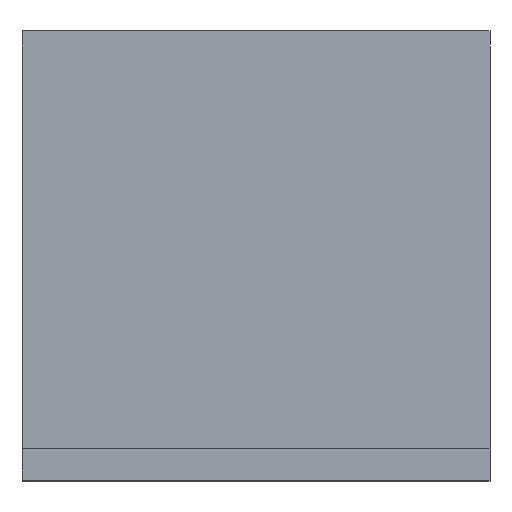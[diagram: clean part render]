
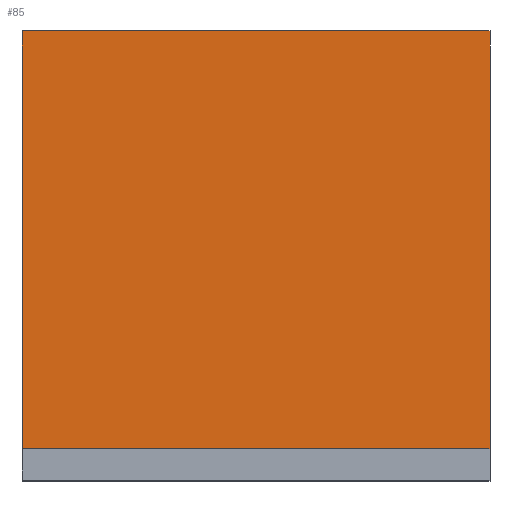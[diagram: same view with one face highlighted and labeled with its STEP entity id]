
A CAD part, top view. The second image highlights one B-rep face of the part: STEP entity #85.
In plain terms, the highlighted planar face has unit normal (0, 0, 1).
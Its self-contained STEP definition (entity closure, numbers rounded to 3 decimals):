
#85=ADVANCED_FACE('',(#131),#615,.T.);
#131=FACE_OUTER_BOUND('',#177,.T.);
#177=EDGE_LOOP('',(#272,#273,#274,#275));
#272=ORIENTED_EDGE('',*,*,#432,.T.);
#273=ORIENTED_EDGE('',*,*,#426,.F.);
#274=ORIENTED_EDGE('',*,*,#433,.F.);
#275=ORIENTED_EDGE('',*,*,#430,.F.);
#426=EDGE_CURVE('',#565,#564,#516,.T.);
#430=EDGE_CURVE('',#566,#567,#520,.T.);
#432=EDGE_CURVE('',#566,#564,#522,.T.);
#433=EDGE_CURVE('',#567,#565,#523,.T.);
#516=B_SPLINE_CURVE_WITH_KNOTS('',1,(#930,#931),.UNSPECIFIED.,.F.,.F.,(2,
2),(-1.955,0.),.UNSPECIFIED.);
#520=B_SPLINE_CURVE_WITH_KNOTS('',1,(#938,#939),.UNSPECIFIED.,.F.,.F.,(2,
2),(-1.955,0.),.UNSPECIFIED.);
#522=B_SPLINE_CURVE_WITH_KNOTS('',1,(#942,#943),.UNSPECIFIED.,.F.,.F.,(2,
2),(-1.745,0.),.UNSPECIFIED.);
#523=B_SPLINE_CURVE_WITH_KNOTS('',1,(#944,#945),.UNSPECIFIED.,.F.,.F.,(2,
2),(0.,1.745),.UNSPECIFIED.);
#564=VERTEX_POINT('',#882);
#565=VERTEX_POINT('',#883);
#566=VERTEX_POINT('',#884);
#567=VERTEX_POINT('',#885);
#615=PLANE('',#733);
#733=AXIS2_PLACEMENT_3D('',#863,#782,$);
#782=DIRECTION('',(0.,0.,1.));
#863=CARTESIAN_POINT('',(298.01,572.01,851.));
#882=CARTESIAN_POINT('',(298.,572.,851.));
#883=CARTESIAN_POINT('',(-298.,572.,851.));
#884=CARTESIAN_POINT('',(298.,40.,851.));
#885=CARTESIAN_POINT('',(-298.,40.,851.));
#930=CARTESIAN_POINT('',(-298.,572.,851.));
#931=CARTESIAN_POINT('',(298.,572.,851.));
#938=CARTESIAN_POINT('',(298.,40.,851.));
#939=CARTESIAN_POINT('',(-298.,40.,851.));
#942=CARTESIAN_POINT('',(298.,40.,851.));
#943=CARTESIAN_POINT('',(298.,572.,851.));
#944=CARTESIAN_POINT('',(-298.,40.,851.));
#945=CARTESIAN_POINT('',(-298.,572.,851.));
